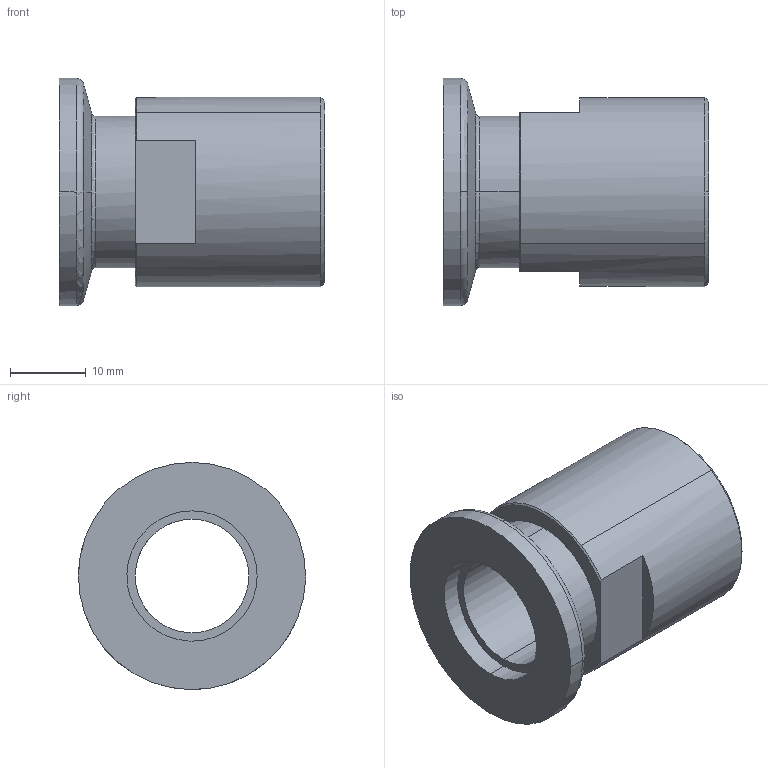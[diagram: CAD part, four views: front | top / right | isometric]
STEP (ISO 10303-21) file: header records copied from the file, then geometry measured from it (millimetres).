
FILE_DESCRIPTION((''),'2;1');
FILE_NAME('88426_ASM_1_ASM','2016-01-15T',('l0100062'),('Copyright by Leybold GmbH'),'PRO/ENGINEER BY PARAMETRIC TECHNOLOGY CORPORATION, 2015280','PRO/ENGINEER BY PARAMETRIC TECHNOLOGY CORPORATION, 2015280','');
FILE_SCHEMA(('AUTOMOTIVE_DESIGN { 1 0 10303 214 1 1 1 1 }'));
Length unit declared in the file: millimetre
Products named in the file (3): 88426_DN16_SCREW-ON_FLANGE_1; MANIFOLD_SOLID_BREP_40_1; 88426_ASM_1_ASM
Assembly tree (2 placements, depth 2):
  88426_ASM_1_ASM
    88426_DN16_SCREW-ON_FLANGE_1
    MANIFOLD_SOLID_BREP_40_1
Bounding box: 35 x 30 x 30 mm (x, y, z)
Volume: 8995 mm3; surface area: 6740.4 mm2
Topology: 2 solids, 2 shells, 44 faces, 127 edges, 91 vertices
Faces by surface type: cylinder 18, plane 12, cone 10, torus 4
Entity records: 2368 total; most frequent: DIRECTION 310, CARTESIAN_POINT 293, ORIENTED_EDGE 254, PRESENTATION_STYLE_ASSIGNMENT 160, STYLED_ITEM 160, AXIS2_PLACEMENT_3D 138, CURVE_STYLE 127, EDGE_CURVE 127
